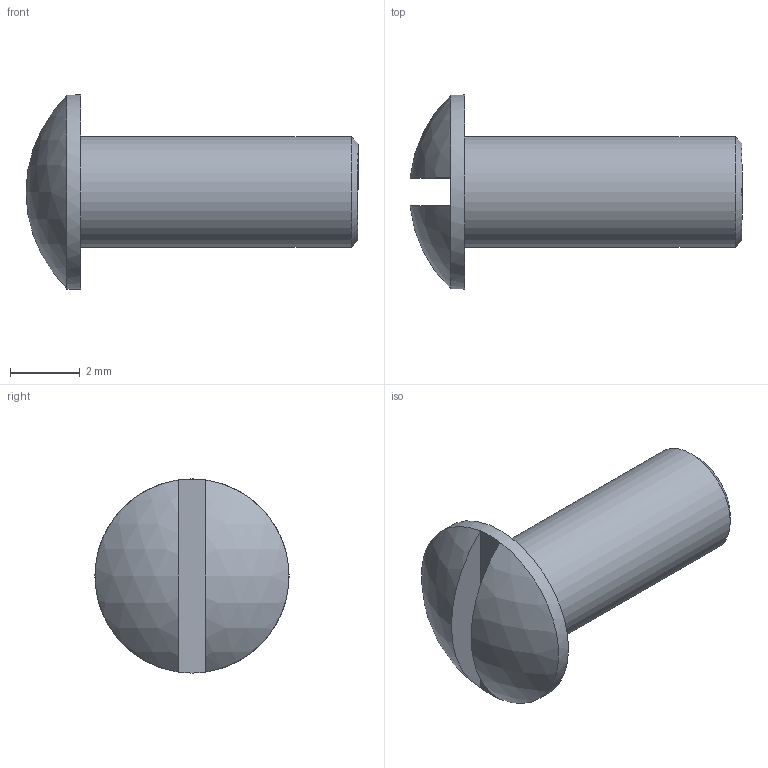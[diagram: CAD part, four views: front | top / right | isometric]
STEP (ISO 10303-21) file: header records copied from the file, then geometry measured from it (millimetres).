
FILE_DESCRIPTION(/* description */ (''),/* implementation_level */ '2;1');
FILE_NAME(/* name */ 'E:/hidden/Engineering Projects/Leslie Controls SuperTyfon/CAD/Components/25190 Diaphragm Ring Screw.step',/* time_stamp */ '2022-08-18T19:36:01+10:00',/* author */ (''),/* organization */ (''),/* preprocessor_version */ 'ST-DEVELOPER v19',/* originating_system */ 'Autodesk Translation Framework v11.7.0.108',/* authorisation */ '');
FILE_SCHEMA (('AUTOMOTIVE_DESIGN { 1 0 10303 214 3 1 1 }'));
Length unit declared in the file: inch
Products named in the file (1): 25190 Diaphragm Ring Screw
Bounding box: 9.5 x 5.56 x 5.56 mm (x, y, z)
Volume: 84 mm3; surface area: 146.2 mm2
Topology: 1 solids, 1 shells, 10 faces, 17 edges, 10 vertices
Faces by surface type: plane 5, cylinder 2, sphere 2, cone 1
Full cylindrical faces by diameter (mm): 3.175 x1, 5.556 x1
Entity records: 276 total; most frequent: DIRECTION 51, CARTESIAN_POINT 38, ORIENTED_EDGE 34, AXIS2_PLACEMENT_3D 23, EDGE_CURVE 17, CIRCLE 12, EDGE_LOOP 11, FACE_OUTER_BOUND 10
